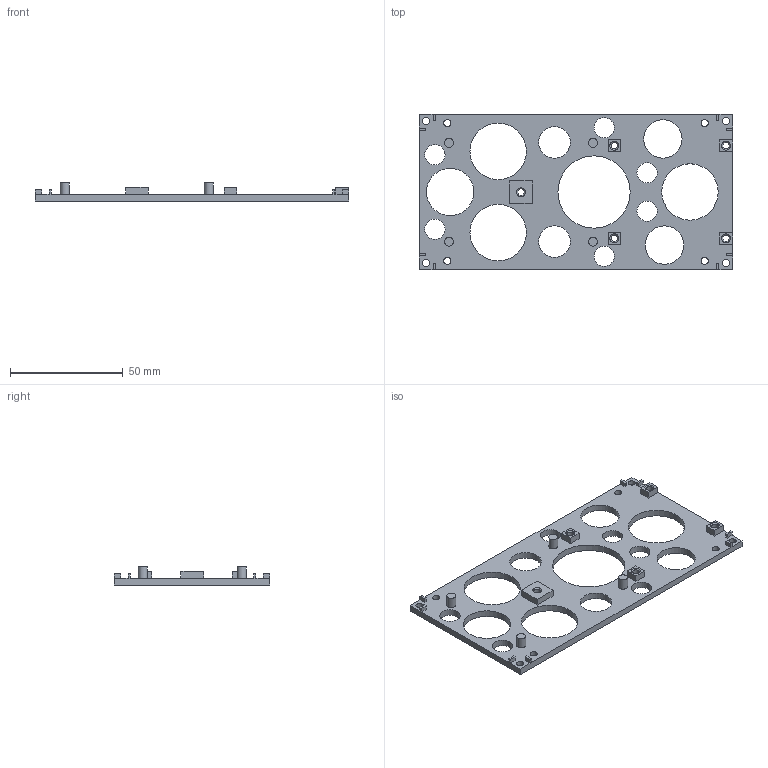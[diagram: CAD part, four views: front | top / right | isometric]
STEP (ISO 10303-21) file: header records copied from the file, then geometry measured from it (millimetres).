
FILE_DESCRIPTION(('FreeCAD Model'),'2;1');
FILE_NAME('Open CASCADE Shape Model','2026-08-19T11:19:44',('Author'),( ''),'Open CASCADE STEP processor 7.8','FreeCAD','Unknown');
FILE_SCHEMA(('AUTOMOTIVE_DESIGN { 1 0 10303 214 1 1 1 1 }'));
Length unit declared in the file: millimetre
Products named in the file (1): Body
Bounding box: 139 x 69 x 8 mm (x, y, z)
Volume: 18001.7 mm3; surface area: 16250.2 mm2
Topology: 1 solids, 1 shells, 108 faces, 282 edges, 185 vertices
Faces by surface type: plane 67, cylinder 32, cone 9
Full cylindrical faces by diameter (mm): 2.95 x5, 3.2 x8, 4 x4, 9 x6, 14 x2, 17 x2, 21 x1, 25 x3, 32 x1
Entity records: 3432 total; most frequent: CARTESIAN_POINT 585, DIRECTION 564, ORIENTED_EDGE 564, EDGE_CURVE 282, LINE 200, VECTOR 200, VERTEX_POINT 185, AXIS2_PLACEMENT_3D 182
